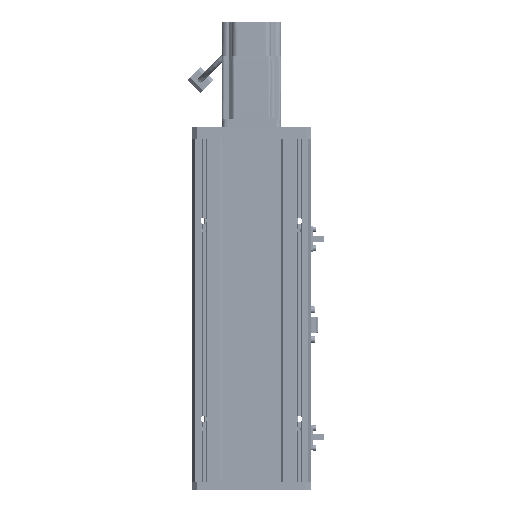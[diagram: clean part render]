
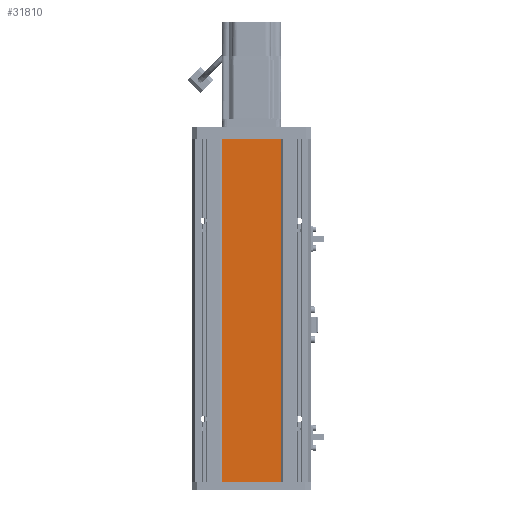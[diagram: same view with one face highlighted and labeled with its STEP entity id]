
A CAD part, front view. The second image highlights one B-rep face of the part: STEP entity #31810.
In plain terms, the highlighted planar face has unit normal (0, -1, 0).
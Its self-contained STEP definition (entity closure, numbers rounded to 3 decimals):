
#334 = VERTEX_POINT ( 'NONE', #95113 ) ;
#1961 = CARTESIAN_POINT ( 'NONE',  ( 30., 0., -346.5 ) ) ;
#2505 = LINE ( 'NONE', #4647, #41494 ) ;
#3578 = DIRECTION ( 'NONE',  ( 0., 0., 1. ) ) ;
#4342 = VERTEX_POINT ( 'NONE', #39349 ) ;
#4647 = CARTESIAN_POINT ( 'NONE',  ( 30., 0., -346.5 ) ) ;
#11144 = ORIENTED_EDGE ( 'NONE', *, *, #31144, .F. ) ;
#16289 = EDGE_CURVE ( 'NONE', #334, #95506, #50085, .T. ) ;
#17505 = CARTESIAN_POINT ( 'NONE',  ( 30., 0., -346.5 ) ) ;
#20307 = FACE_OUTER_BOUND ( 'NONE', #37622, .T. ) ;
#31144 = EDGE_CURVE ( 'NONE', #4342, #334, #46061, .T. ) ;
#31810 = ADVANCED_FACE ( 'NONE', ( #20307 ), #41019, .F. ) ;
#37622 = EDGE_LOOP ( 'NONE', ( #58160, #83799, #11144, #45867 ) ) ;
#39349 = CARTESIAN_POINT ( 'NONE',  ( 30., 0., -346.5 ) ) ;
#41019 = PLANE ( 'NONE',  #54160 ) ;
#41494 = VECTOR ( 'NONE', #59160, 1000. ) ;
#45867 = ORIENTED_EDGE ( 'NONE', *, *, #61231, .T. ) ;
#46061 = LINE ( 'NONE', #1961, #85114 ) ;
#47251 = DIRECTION ( 'NONE',  ( -1., 0., 0. ) ) ;
#48680 = DIRECTION ( 'NONE',  ( -1., 0., 0. ) ) ;
#50085 = LINE ( 'NONE', #73806, #94055 ) ;
#50288 = DIRECTION ( 'NONE',  ( -1., 0., 0. ) ) ;
#54160 = AXIS2_PLACEMENT_3D ( 'NONE', #17505, #97012, #50288 ) ;
#58160 = ORIENTED_EDGE ( 'NONE', *, *, #76093, .T. ) ;
#59073 = VERTEX_POINT ( 'NONE', #74943 ) ;
#59160 = DIRECTION ( 'NONE',  ( 0., 0., 1. ) ) ;
#61231 = EDGE_CURVE ( 'NONE', #4342, #59073, #2505, .T. ) ;
#64754 = CARTESIAN_POINT ( 'NONE',  ( -30., 0., 0. ) ) ;
#73806 = CARTESIAN_POINT ( 'NONE',  ( -30., 0., -346.5 ) ) ;
#74943 = CARTESIAN_POINT ( 'NONE',  ( 30., 0., 0. ) ) ;
#76093 = EDGE_CURVE ( 'NONE', #59073, #95506, #80055, .T. ) ;
#80055 = LINE ( 'NONE', #86170, #100838 ) ;
#83799 = ORIENTED_EDGE ( 'NONE', *, *, #16289, .F. ) ;
#85114 = VECTOR ( 'NONE', #48680, 1000. ) ;
#86170 = CARTESIAN_POINT ( 'NONE',  ( 30., 0., 0. ) ) ;
#94055 = VECTOR ( 'NONE', #3578, 1000. ) ;
#95113 = CARTESIAN_POINT ( 'NONE',  ( -30., 0., -346.5 ) ) ;
#95506 = VERTEX_POINT ( 'NONE', #64754 ) ;
#97012 = DIRECTION ( 'NONE',  ( 0., 1., 0. ) ) ;
#100838 = VECTOR ( 'NONE', #47251, 1000. ) ;
